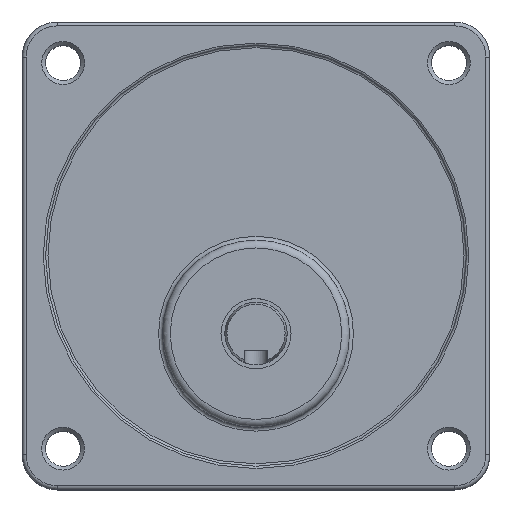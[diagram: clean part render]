
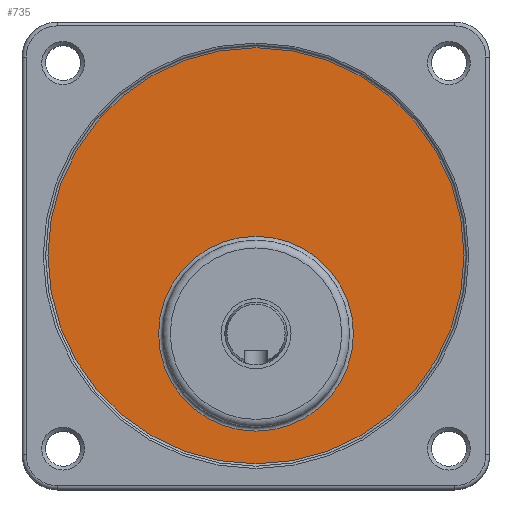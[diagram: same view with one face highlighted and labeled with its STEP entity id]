
A CAD part, top view. The second image highlights one B-rep face of the part: STEP entity #735.
In plain terms, the highlighted planar face has unit normal (0, 0, 1).
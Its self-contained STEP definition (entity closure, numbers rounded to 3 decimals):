
#684=CARTESIAN_POINT('',(42.5,20.0,29.2));
#685=VERTEX_POINT('',#684);
#686=CARTESIAN_POINT('',(30.,20.0,29.2));
#687=DIRECTION('',(0.0,0.0,1.0));
#688=DIRECTION('',(-1.0,0.0,0.0));
#689=AXIS2_PLACEMENT_3D('',#686,#687,#688);
#690=CIRCLE('',#689,12.5);
#691=EDGE_CURVE('',#685,#685,#690,.T.);
#716=CARTESIAN_POINT('',(30.,30.0,29.2));
#717=DIRECTION('',(0.0,0.0,-1.0));
#718=DIRECTION('',(-1.0,0.0,0.0));
#719=AXIS2_PLACEMENT_3D('',#716,#717,#718);
#720=PLANE('',#719);
#721=CARTESIAN_POINT('',(56.699,30.,29.2));
#722=VERTEX_POINT('',#721);
#723=CARTESIAN_POINT('',(30.,30.0,29.2));
#724=DIRECTION('',(0.0,0.0,-1.0));
#725=DIRECTION('',(-1.0,0.0,0.0));
#726=AXIS2_PLACEMENT_3D('',#723,#724,#725);
#727=CIRCLE('',#726,26.699);
#728=EDGE_CURVE('',#722,#722,#727,.T.);
#729=ORIENTED_EDGE('',*,*,#728,.F.);
#730=EDGE_LOOP('',(#729));
#731=FACE_OUTER_BOUND('',#730,.T.);
#732=ORIENTED_EDGE('',*,*,#691,.F.);
#733=EDGE_LOOP('',(#732));
#734=FACE_BOUND('',#733,.T.);
#735=ADVANCED_FACE('',(#731,#734),#720,.F.);
